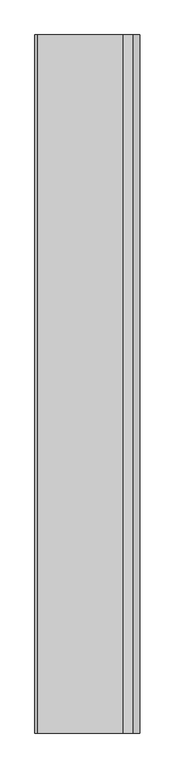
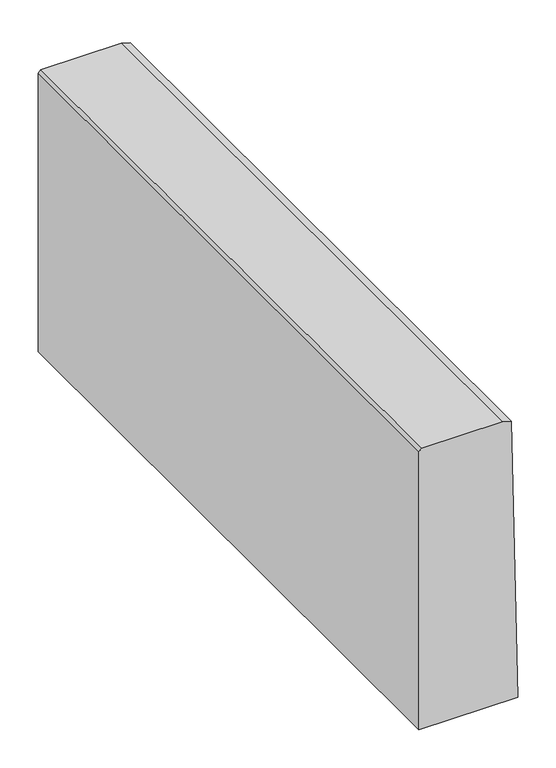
"""IFC4 building model written with IfcOpenShell, lengths in millimetres: railing geometry, BORDILLO_A81-ES_TITAN_80x45x15."""

from ifc_helpers import new_model, si_unit, frame, origin, place, context, project, spatial, polyline, outline, extrude, source, transform, mapped, element, save


def railing_255e2991(model_context):
    return source(origin(), model_context, "Body", "SweptSolid", [
        extrude(outline(polyline([(446.0, -2763.993975), (0.0, -2763.993975), (0.0, -2613.993975), (446.0, -2623.9050861), (450.0, -2637.993975), (450.0, -2759.993975), (446.0, -2763.993975)])), frame((0.0, 1616.2300366, 0.0), z_axis=(0.0, 1.0, 0.0), x_axis=(0.0, 0.0, 1.0)), (0.0, 0.0, 1.0), 1000.0),
    ])


if __name__ == "__main__":
    model = new_model("IFC4")
    model_context = context("Model", 3, world=origin())
    ifc_project = project(units=[si_unit("LENGTHUNIT", "METRE", prefix="MILLI")], contexts=[model_context])
    site = spatial("IfcSite", under=ifc_project)
    building = spatial("IfcBuilding", under=site)
    placement = place(None, origin())
    railing_shape = railing_255e2991(model_context)
    element("IfcRailing", 1, ObjectType="BORDILLO_A81-ES_TITAN_80x45x15", at=placement, inside=building, context=model_context, shape_type="MappedRepresentation", body=[
        mapped(railing_shape, transform((0.0, 0.0, 0.0), x_axis=(1.0, 0.0, 0.0), y_axis=(0.0, 1.0, 0.0), z_axis=(0.0, 0.0, 1.0))),
    ])
    save(model, "model.ifc")
